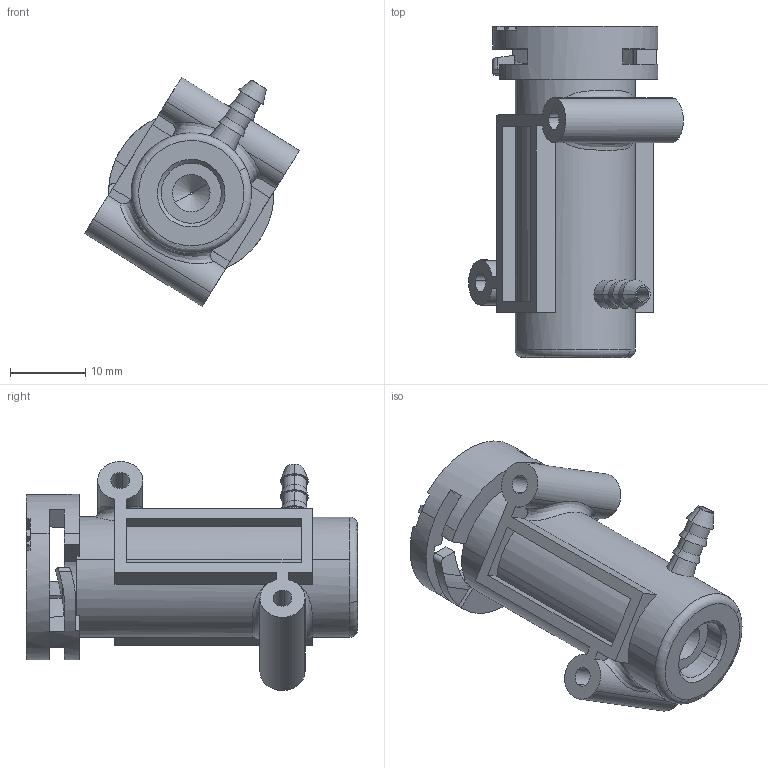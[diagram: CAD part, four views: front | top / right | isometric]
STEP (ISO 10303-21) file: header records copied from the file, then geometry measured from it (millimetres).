
FILE_DESCRIPTION(('CATIA V5 STEP Exchange'),'2;1');
FILE_NAME('C:\Users\Administrator\Desktop\座椅主动阻尼控制系统样件采购申请-\数模\573.4601.02_V1（BPC0010036）.stp','2021-01-28T03:17:15+00:00',('none'),('none'),'CATIA Version 5 Release 21 GA (IN-10)','CATIA V5 STEP AP214','none');
FILE_SCHEMA(('AUTOMOTIVE_DESIGN { 1 0 10303 214 1 1 1 1 }'));
Length unit declared in the file: millimetre
Products named in the file (1): 573.4601.02_V1
Bounding box: 28.54 x 44 x 30.45 mm (x, y, z)
Volume: 6051.9 mm3; surface area: 6294 mm2
Topology: 1 solids, 1 shells, 156 faces, 540 edges, 384 vertices
Faces by surface type: plane 77, cylinder 44, cone 21, bspline 8, torus 4, sphere 2
Entity records: 7914 total; most frequent: CARTESIAN_POINT 2601, ORIENTED_EDGE 1066, DIRECTION 640, EDGE_CURVE 533, VERTEX_POINT 384, AXIS2_PLACEMENT_3D 293, VECTOR 201, LINE 201
